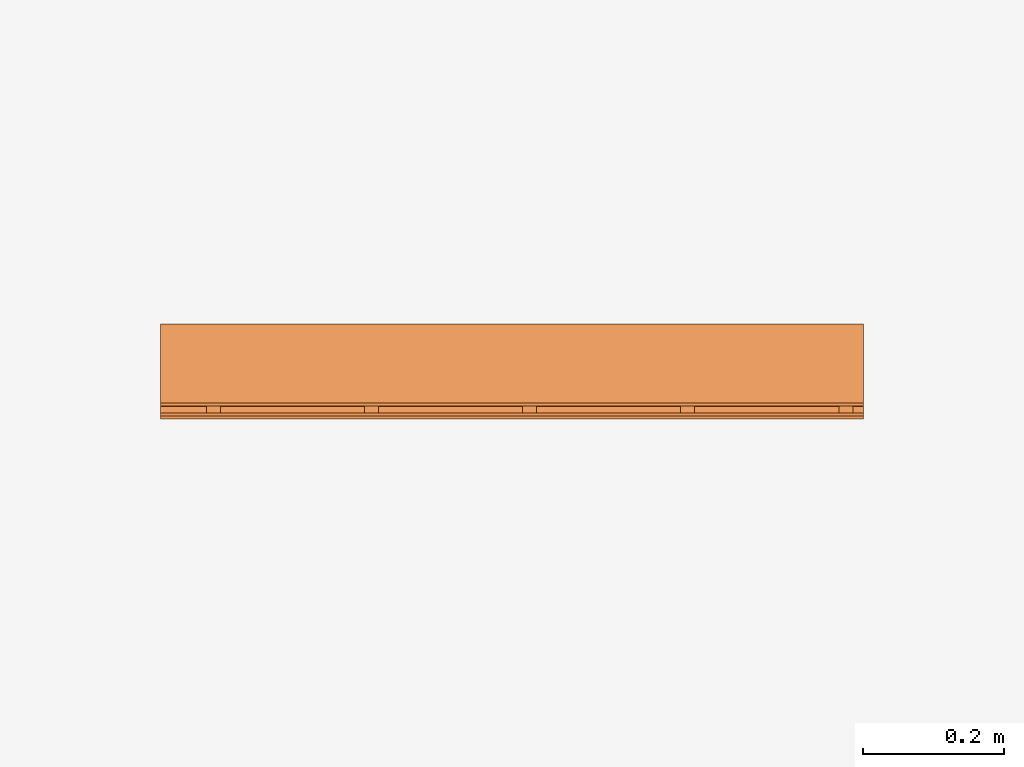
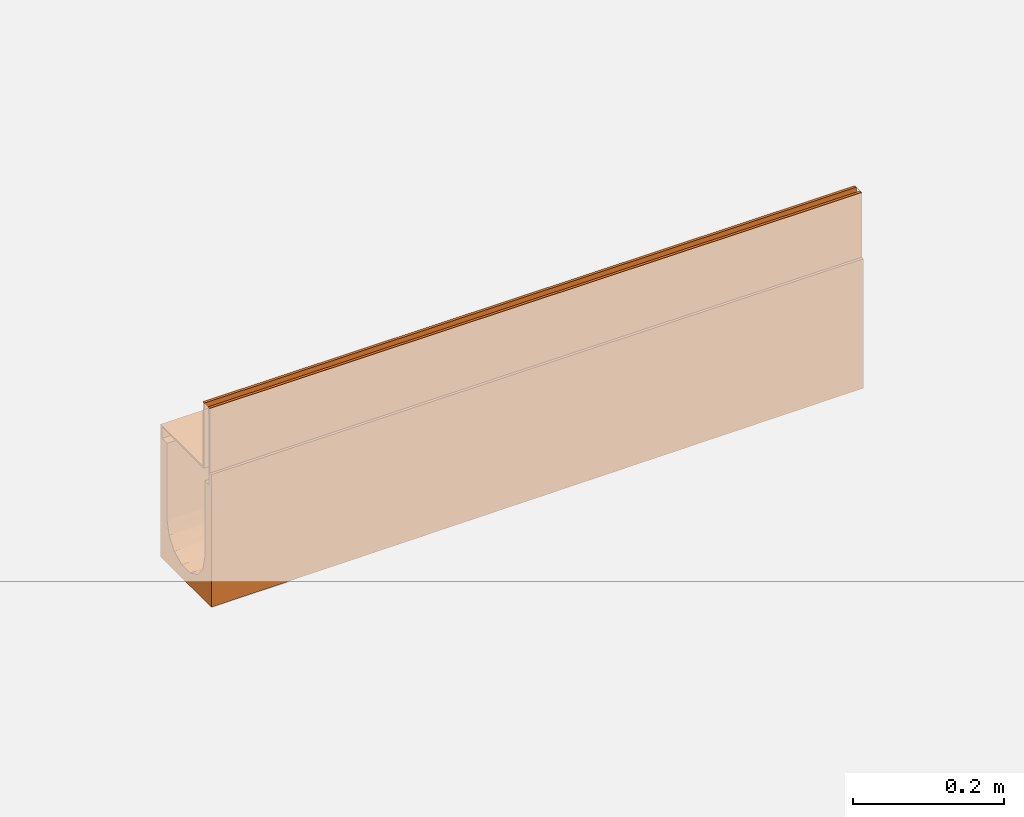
# One storey, part 2 of 2: 1 proxy.
"""IFC2X3 building model written with IfcOpenShell, lengths in millimetres."""

from ifc_helpers import new_model, entity, si_unit, converted_unit, direction, frame, origin, place, context, subcontext, project, spatial, faceted_brep, source, transform, mapped, material, material_list, element, save


model = new_model("IFC2X3")

# Units and contexts
model_context = context("Model", 3, precision=1e-06, world=origin(), true_north=direction((2.0, 6.12303176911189e-17, 1.0)))
context_of_model = context(None, 3, precision=1e-06, world=origin(), true_north=direction((2.0, 6.12303176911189e-17, 1.0)))
body_context = subcontext(model_context, "Body", "Model", "MODEL_VIEW")
ifc_project = project(units=[si_unit("LENGTHUNIT", "METRE", prefix="MILLI"), si_unit("AREAUNIT", "SQUARE_METRE", prefix="MILLI"), si_unit("VOLUMEUNIT", "CUBIC_METRE", prefix="MILLI"), converted_unit("PLANEANGLEUNIT", "DEGREE", entity("IfcRatioMeasure", 0.0174532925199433), si_unit("PLANEANGLEUNIT", "RADIAN"), dimensions=[0, 0, 0, 0, 0, 0, 0]), si_unit("TIMEUNIT", "SECOND")], contexts=[model_context, context_of_model])

# Site, building, storey
site_placement = place(None, origin())
site = spatial("IfcSite", under=ifc_project, at=site_placement, Name="Default", CompositionType="ELEMENT")
building_placement = place(site_placement, origin())
building = spatial("IfcBuilding", under=site, at=building_placement, CompositionType="ELEMENT")
storey_placement = place(building_placement, origin())
storey = spatial("IfcBuildingStorey", under=building, at=storey_placement, Name="Level 1", CompositionType="ELEMENT", Elevation=0.0)

# Proxy
ifc_material_1 = material(Name="Steel, Galvanized")
ifc_material_2 = material(Name="Vienite® Synthetic Resin Concrete")
ifc_material_list = material_list([ifc_material_1, ifc_material_2])
shared_shape = source(origin(), body_context, "Body", "Brep", [
    faceted_brep([(63.249999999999, 15.0, -107.0), (63.249999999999, 17.0, -109.0), (63.249999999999, 33.0, -109.0), (63.249999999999, 35.0, -107.0), (63.249999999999, 17.0, -123.499999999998), (63.249999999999, 15.0, -125.499999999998), (63.249999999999, 33.0, -123.499999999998), (63.249999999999, 35.0, -125.499999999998), (-61.250000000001, 15.0, -125.499999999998), (-61.250000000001, 17.0, -123.499999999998), (-61.250000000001, 33.0, -123.499999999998), (-61.250000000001, 35.0, -125.499999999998), (-61.250000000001, 17.0, -109.0), (-61.250000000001, 15.0, -107.0), (-61.250000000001, 33.0, -109.0), (-61.250000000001, 35.0, -107.0)], [[[0, 1, 2, 3]], [[4, 1, 0, 5]], [[3, 2, 6, 7]], [[6, 4, 5, 7]], [[8, 9, 10, 11]], [[12, 9, 8, 13]], [[11, 10, 14, 15]], [[14, 12, 13, 15]], [[5, 0, 13, 8]], [[7, 5, 8, 11]], [[3, 7, 11, 15]], [[0, 3, 15, 13]], [[1, 4, 9, 12]], [[14, 2, 1, 12]], [[6, 2, 14, 10]], [[9, 4, 6, 10]]]),
    faceted_brep([(-47.2500000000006, 0.0, -10.0), (-47.2500000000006, 0.0, -107.0), (-45.2500000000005, 0.0, -105.0), (-45.2500000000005, 0.0, 0.0), (-49.2500000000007, 0.0, 0.0), (-49.2500000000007, 0.0, -10.0), (63.2499999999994, 0.0, -107.0), (63.2499999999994, 0.0, -105.0), (-45.2500000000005, 1000.0, -105.0), (63.2499999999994, 1000.0, -105.0), (63.2499999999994, 1000.0, -107.0), (-47.2500000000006, 1000.0, -107.0), (-47.2500000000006, 1000.0, -10.0), (-45.2500000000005, 1000.0, 0.0), (-49.2500000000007, 1000.0, -10.0), (-49.2500000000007, 1000.0, 0.0)], [[[0, 1, 2, 3]], [[4, 5, 0, 3]], [[6, 7, 2, 1]], [[8, 9, 10, 11]], [[12, 13, 8, 11]], [[12, 14, 15, 13]], [[0, 5, 14, 12]], [[11, 1, 0, 12]], [[6, 1, 11, 10]], [[9, 7, 6, 10]], [[8, 2, 7, 9]], [[3, 2, 8, 13]], [[15, 4, 3, 13]], [[5, 4, 15, 14]]]),
    faceted_brep([(-59.2500000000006, 1000.0, 0.0), (-59.2500000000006, 1000.0, -10.0), (-61.2500000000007, 1000.0, -10.0), (-63.2500000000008, 1000.0, 0.0), (-63.2500000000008, 1000.0, -125.499999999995), (-61.2500000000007, 1000.0, -125.499999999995), (-61.2500000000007, 0.0, -10.0), (-63.2500000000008, 0.0, 0.0), (-63.2500000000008, 0.0, -125.499999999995), (-61.2500000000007, 0.0, -125.499999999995), (-59.2500000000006, 0.0, 0.0), (-59.2500000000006, 0.0, -10.0)], [[[0, 1, 2, 3]], [[4, 3, 2, 5]], [[6, 7, 8, 9]], [[10, 7, 6, 11]], [[9, 8, 4, 5]], [[6, 9, 5, 2]], [[11, 6, 2, 1]], [[10, 11, 1, 0]], [[3, 7, 10, 0]], [[4, 8, 7, 3]]]),
    faceted_brep([(63.2499999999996, 465.0, -107.0), (63.2499999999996, 467.0, -109.0), (63.2499999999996, 483.0, -109.0), (63.2499999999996, 485.0, -107.0), (63.2499999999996, 467.0, -123.499999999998), (63.2499999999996, 465.0, -125.499999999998), (63.2499999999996, 483.0, -123.499999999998), (63.2499999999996, 485.0, -125.499999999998), (-61.2500000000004, 465.0, -125.499999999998), (-61.2500000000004, 467.0, -123.499999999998), (-61.2500000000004, 483.0, -123.499999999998), (-61.2500000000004, 485.0, -125.499999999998), (-61.2500000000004, 467.0, -109.0), (-61.2500000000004, 465.0, -107.0), (-61.2500000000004, 483.0, -109.0), (-61.2500000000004, 485.0, -107.0)], [[[0, 1, 2, 3]], [[4, 1, 0, 5]], [[3, 2, 6, 7]], [[6, 4, 5, 7]], [[8, 9, 10, 11]], [[12, 9, 8, 13]], [[11, 10, 14, 15]], [[14, 12, 13, 15]], [[5, 0, 13, 8]], [[7, 5, 8, 11]], [[3, 7, 11, 15]], [[0, 3, 15, 13]], [[1, 4, 9, 12]], [[2, 1, 12, 14]], [[6, 2, 14, 10]], [[4, 6, 10, 9]]]),
    faceted_brep([(63.2499999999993, 240.0, -107.0), (63.2499999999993, 242.0, -109.0), (63.2499999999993, 258.0, -109.0), (63.2499999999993, 260.0, -107.0), (63.2499999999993, 242.0, -123.499999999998), (63.2499999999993, 240.0, -125.499999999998), (63.2499999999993, 258.0, -123.499999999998), (63.2499999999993, 260.0, -125.499999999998), (-61.2500000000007, 240.0, -125.499999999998), (-61.2500000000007, 242.0, -123.499999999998), (-61.2500000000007, 258.0, -123.499999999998), (-61.2500000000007, 260.0, -125.499999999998), (-61.2500000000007, 242.0, -109.0), (-61.2500000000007, 240.0, -107.0), (-61.2500000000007, 258.0, -109.0), (-61.2500000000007, 260.0, -107.0)], [[[0, 1, 2, 3]], [[4, 1, 0, 5]], [[3, 2, 6, 7]], [[6, 4, 5, 7]], [[8, 9, 10, 11]], [[12, 9, 8, 13]], [[11, 10, 14, 15]], [[14, 12, 13, 15]], [[5, 0, 13, 8]], [[7, 5, 8, 11]], [[3, 7, 11, 15]], [[0, 3, 15, 13]], [[1, 4, 9, 12]], [[2, 1, 12, 14]], [[6, 2, 14, 10]], [[4, 6, 10, 9]]]),
    faceted_brep([(63.2500000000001, 915.0, -107.0), (63.2500000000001, 917.0, -109.0), (63.2500000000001, 933.0, -109.0), (63.2500000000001, 935.0, -107.0), (63.2500000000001, 917.0, -123.499999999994), (63.2500000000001, 915.0, -125.499999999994), (63.2500000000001, 933.0, -123.499999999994), (63.2500000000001, 935.0, -125.499999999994), (-61.2499999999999, 915.0, -125.499999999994), (-61.2499999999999, 917.0, -123.499999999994), (-61.2499999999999, 933.0, -123.499999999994), (-61.2499999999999, 935.0, -125.499999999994), (-61.2499999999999, 917.0, -109.0), (-61.2499999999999, 915.0, -107.0), (-61.2499999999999, 933.0, -109.0), (-61.2499999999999, 935.0, -107.0)], [[[0, 1, 2, 3]], [[4, 1, 0, 5]], [[3, 2, 6, 7]], [[6, 4, 5, 7]], [[8, 9, 10, 11]], [[12, 9, 8, 13]], [[11, 10, 14, 15]], [[14, 12, 13, 15]], [[5, 0, 13, 8]], [[11, 7, 5, 8]], [[3, 7, 11, 15]], [[13, 0, 3, 15]], [[1, 4, 9, 12]], [[2, 1, 12, 14]], [[6, 2, 14, 10]], [[4, 6, 10, 9]]]),
    faceted_brep([(63.2499999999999, 690.0, -107.0), (63.2499999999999, 692.0, -109.0), (63.2499999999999, 708.0, -109.0), (63.2499999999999, 710.0, -107.0), (63.2499999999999, 692.0, -123.499999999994), (63.2499999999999, 690.0, -125.499999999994), (63.2499999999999, 708.0, -123.499999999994), (63.2499999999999, 710.0, -125.499999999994), (-61.2500000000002, 690.0, -125.499999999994), (-61.2500000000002, 692.0, -123.499999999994), (-61.2500000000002, 708.0, -123.499999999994), (-61.2500000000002, 710.0, -125.499999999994), (-61.2500000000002, 692.0, -109.0), (-61.2500000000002, 690.0, -107.0), (-61.2500000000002, 708.0, -109.0), (-61.2500000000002, 710.0, -107.0)], [[[0, 1, 2, 3]], [[4, 1, 0, 5]], [[3, 2, 6, 7]], [[6, 4, 5, 7]], [[8, 9, 10, 11]], [[12, 9, 8, 13]], [[11, 10, 14, 15]], [[14, 12, 13, 15]], [[5, 0, 13, 8]], [[11, 7, 5, 8]], [[3, 7, 11, 15]], [[13, 0, 3, 15]], [[1, 4, 9, 12]], [[2, 1, 12, 14]], [[6, 2, 14, 10]], [[4, 6, 10, 9]]]),
    faceted_brep([(-67.4999999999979, 1000.0, -105.0), (-63.2499999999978, 1000.0, -105.0), (-63.2499999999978, 1000.0, -125.500000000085), (-67.4999999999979, 1000.0, -320.0), (-50.0, 1000.0, -125.500000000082), (-50.0, 1000.0, -250.0), (-47.5242216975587, 1000.0, -260.847093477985), (-45.0484433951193, 1000.0, -271.694186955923), (-31.1744900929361, 1000.0, -289.091574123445), (-21.1502683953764, 1000.0, -293.91898486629), (-11.1260466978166, 1000.0, -298.746395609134), (-38.1114667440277, 1000.0, -280.392880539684), (0.0, 1000.0, -298.746395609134), (11.126046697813, 1000.0, -298.746395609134), (50.0, 1000.0, -250.0), (50.0, 1000.0, -125.500000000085), (63.249999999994, 1000.0, -125.500000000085), (67.500000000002, 1000.0, -320.0), (63.249999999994, 1000.0, -105.0), (67.500000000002, 1000.0, -105.0), (21.1502683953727, 1000.0, -293.91898486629), (31.1744900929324, 1000.0, -289.091574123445), (45.0484433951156, 1000.0, -271.694186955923), (47.5242216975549, 1000.0, -260.847093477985), (38.111466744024, 1000.0, -280.392880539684), (-67.5000000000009, 0.0, -315.0), (-45.0484433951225, 0.0, -266.694186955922), (-46.5542373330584, 0.0, -260.096872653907), (-50.0, 0.0, -245.0), (-31.1744900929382, 0.0, -284.091574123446), (-38.1114667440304, 0.0, -275.392880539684), (-11.1260466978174, 0.0, -293.746395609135), (-21.1502683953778, 0.0, -288.91898486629), (11.1260466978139, 0.0, -293.746395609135), (0.0, 0.0, -293.746395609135), (67.4999999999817, 0.0, -315.0), (-63.2499999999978, 0.0, -125.500000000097), (-63.2499999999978, 0.0, -105.0), (-67.5000000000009, 0.0, -105.0), (-50.0, 0.0, -125.500000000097), (31.1744900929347, 0.0, -284.091574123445), (21.1502683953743, 0.0, -288.91898486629), (50.0, 0.0, -245.0), (46.5542371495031, 0.0, -260.096873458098), (45.0484433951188, 0.0, -266.694186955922), (38.1114667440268, 0.0, -275.392880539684), (63.2500000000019, 0.0, -125.500000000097), (50.0, 0.0, -125.500000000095), (67.4999999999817, 0.0, -105.0), (63.2500000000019, 0.0, -105.0), (-50.0, 250.000013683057, -246.250000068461), (-35.5430016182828, 477.55479373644, -282.554449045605), (-39.0915746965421, 301.904841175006, -277.684013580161), (-30.4065854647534, 315.866317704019, -286.271138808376), (39.0915767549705, 653.204744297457, -279.44051051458), (43.1307072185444, 488.864082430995, -272.737443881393), (44.2106003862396, 635.514288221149, -271.531860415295), (-39.0915747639, 653.204746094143, -279.440513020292), (-29.696093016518, 646.565597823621, -288.458964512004), (-47.3876306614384, 374.999991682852, -262.82531219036), (-48.89171460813, 518.387005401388, -258.060948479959), (-2.91588081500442e-06, 301.904832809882, -296.509524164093), (-10.9684170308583, 305.042894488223, -295.307320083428), (-5.5982252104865, 150.952413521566, -295.440372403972), (12.0741057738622, 315.866299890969, -295.099594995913), (5.33371147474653, 477.554791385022, -297.10247522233), (35.3553400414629, 150.952387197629, -281.110100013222), (-41.8233658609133, 146.584549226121, -273.133763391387), (42.1728888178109, 829.135588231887, -276.005451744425), (47.0016510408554, 843.632235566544, -266.272333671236), (-50.0, 749.999986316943, -248.749999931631), (-47.0016499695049, 843.632222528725, -266.27233655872), (-21.6941880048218, 209.065851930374, -291.093772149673), (-35.3553394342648, 150.952420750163, -281.110100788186), (-34.4525207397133, 816.145858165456, -285.316399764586), (-25.646806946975, 806.214865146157, -291.952412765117), (21.6941814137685, 500.0, -292.548446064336), (29.6960925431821, 646.565642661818, -288.458965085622), (16.1554098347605, 747.818208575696, -296.057192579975), (-3.27550310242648e-06, 653.204751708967, -298.266023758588), (-8.54111809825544, 477.617179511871, -296.653178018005), (21.6941852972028, 209.065841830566, -291.093773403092), (-46.4228776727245, 186.188946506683, -264.502870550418), (34.4525215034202, 816.145876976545, -285.316399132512), (49.2918467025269, 134.881431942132, -254.0597424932), (47.3876313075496, 374.999975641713, -262.825310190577), (46.4228780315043, 186.188933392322, -264.502869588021), (-50.0, 499.999972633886, -247.499999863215), (39.0915763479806, 301.904795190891, -277.684011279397), (41.8233665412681, 146.584526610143, -273.133762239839), (25.6468067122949, 806.214870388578, -291.952412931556), (-5.38536224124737, 826.602379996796, -298.842144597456), (-16.1554121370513, 747.81816965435, -296.057191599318), (35.5430053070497, 477.554758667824, -282.554445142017), (-42.1728873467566, 829.135597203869, -276.005454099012), (5.59822218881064, 150.952412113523, -295.440372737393), (30.4065855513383, 315.866251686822, -286.271138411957), (-43.1307054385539, 488.864104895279, -272.737447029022), (-44.2105988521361, 635.514296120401, -271.531863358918), (-49.2918465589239, 134.881438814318, -254.059743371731), (-47.7236140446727, 671.453379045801, -263.272248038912), (48.8917149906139, 518.386993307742, -258.060946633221), (50.0, 250.000027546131, -246.250000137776), (50.0, 499.999944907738, -247.499999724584), (50.0, 749.999972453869, -248.749999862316), (47.7236147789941, 671.453375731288, -263.272245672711), (-22.9273943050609, 354.532924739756, -291.206149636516), (-21.6941890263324, 500.0, -292.548442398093), (5.80423086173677, 807.818012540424, -298.701056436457), (22.9273914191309, 354.532889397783, -291.206150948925)], [[[0, 1, 2, 3]], [[2, 4, 5, 3]], [[3, 5, 6, 7]], [[3, 8, 9, 10]], [[3, 7, 11, 8]], [[3, 10, 12, 13]], [[14, 15, 16, 17]], [[16, 18, 19, 17]], [[17, 13, 20, 21]], [[17, 22, 23, 14]], [[17, 21, 24, 22]], [[13, 17, 3]], [[25, 26, 27, 28]], [[25, 29, 30, 26]], [[25, 31, 32, 29]], [[33, 34, 25, 35]], [[36, 37, 38, 25]], [[28, 39, 36, 25]], [[35, 40, 41, 33]], [[35, 42, 43, 44]], [[35, 44, 45, 40]], [[46, 47, 42, 35]], [[48, 49, 46, 35]], [[1, 37, 36, 2]], [[0, 38, 37, 1]], [[0, 3, 25, 38]], [[3, 17, 35, 25]], [[19, 48, 35, 17]], [[18, 49, 48, 19]], [[16, 46, 49, 18]], [[16, 15, 47, 46]], [[4, 39, 28, 50]], [[2, 36, 39, 4]], [[51, 52, 53]], [[54, 55, 56]], [[57, 51, 58]], [[59, 60, 50]], [[61, 62, 63]], [[61, 64, 65]], [[40, 45, 66]], [[30, 67, 26]], [[68, 69, 22]], [[70, 71, 6]], [[29, 72, 73]], [[74, 75, 8]], [[76, 77, 78]], [[65, 79, 80]], [[66, 81, 40]], [[27, 26, 82]], [[24, 83, 68]], [[84, 85, 86]], [[87, 50, 60, 70]], [[88, 66, 89]], [[58, 75, 74]], [[83, 90, 77]], [[91, 10, 92]], [[76, 93, 77]], [[54, 93, 55]], [[94, 57, 74]], [[30, 73, 67]], [[63, 72, 31]], [[61, 63, 95]], [[72, 53, 73]], [[45, 89, 66]], [[93, 76, 96]], [[97, 98, 60]], [[27, 82, 99]], [[52, 51, 97]], [[98, 94, 71]], [[98, 71, 100]], [[101, 102, 103, 104]], [[102, 101, 85]], [[84, 86, 43]], [[104, 69, 105]], [[69, 68, 56]], [[28, 27, 99]], [[52, 59, 82]], [[99, 59, 50]], [[72, 29, 32, 31]], [[29, 73, 30]], [[67, 52, 82]], [[95, 34, 33]], [[73, 53, 52]], [[72, 106, 53]], [[107, 58, 51]], [[107, 51, 53]], [[97, 51, 57]], [[58, 107, 92]], [[74, 57, 58]], [[80, 92, 107]], [[79, 108, 91]], [[98, 97, 57]], [[52, 97, 59]], [[52, 67, 73]], [[26, 67, 82]], [[92, 10, 9]], [[74, 11, 94]], [[92, 9, 75]], [[94, 7, 71]], [[75, 58, 92]], [[59, 99, 82]], [[28, 99, 50]], [[11, 74, 8]], [[11, 7, 94]], [[8, 75, 9]], [[70, 6, 5]], [[71, 70, 100]], [[71, 7, 6]], [[43, 86, 44]], [[42, 102, 84]], [[88, 86, 85]], [[42, 84, 43]], [[85, 84, 102]], [[81, 66, 96]], [[86, 89, 44]], [[81, 33, 41, 40]], [[96, 66, 88]], [[95, 64, 61]], [[93, 96, 88]], [[109, 81, 96]], [[55, 88, 85]], [[93, 54, 77]], [[54, 83, 77]], [[90, 78, 77]], [[12, 91, 108]], [[65, 78, 79]], [[88, 55, 93]], [[55, 85, 101]], [[44, 89, 45]], [[88, 89, 86]], [[68, 83, 54]], [[20, 90, 21]], [[68, 54, 56]], [[24, 21, 83]], [[78, 20, 13]], [[68, 22, 24]], [[21, 90, 83]], [[20, 78, 90]], [[101, 104, 105]], [[104, 23, 69]], [[23, 104, 14]], [[91, 92, 79]], [[23, 22, 69]], [[63, 31, 34]], [[33, 81, 95]], [[64, 95, 81]], [[109, 64, 81]], [[76, 78, 65]], [[76, 65, 64]], [[79, 92, 80]], [[107, 106, 62]], [[61, 65, 80]], [[95, 63, 34]], [[61, 80, 62]], [[107, 62, 80]], [[72, 63, 62]], [[97, 60, 59]], [[70, 60, 100]], [[101, 105, 56]], [[62, 106, 72]], [[107, 53, 106]], [[94, 98, 57]], [[60, 98, 100]], [[96, 76, 109]], [[64, 109, 76]], [[101, 56, 55]], [[56, 105, 69]], [[108, 79, 78]], [[10, 91, 12]], [[78, 13, 108]], [[12, 108, 13]], [[15, 14, 104, 103]], [[47, 15, 42]], [[25, 34, 31]], [[4, 50, 87, 70]], [[4, 70, 5]], [[15, 103, 102, 42]]]),
])
proxy_placement = place(storey_placement, frame((143.656586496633, 99.9218925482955, 0.0), z_axis=(0.0, 0.0, 1.0), x_axis=(0.0, 1.0, 0.0)))
element("IfcBuildingElementProxy", 1, at=proxy_placement, inside=storey, material=ifc_material_list, Name="Civil-Drainage-Channel-ACO-MultiDrain-M100D-Brickslot-Channel-System:23013 - No 13 Sloping Channel - 1000mm LG - Invert Depth 190/195mm:23013 - No 13 Sloping Channel - 1000mm LG - Invert Depth 190/195mm", ObjectType="23013 - No 13 Sloping Channel - 1000mm LG - Invert Depth 190/195mm", CompositionType="ELEMENT", context=body_context, shape_type="MappedRepresentation", body=[
    mapped(shared_shape, transform((0.0, 0.0, 0.0), scale=1.0)),
])

save(model, "model.ifc")
